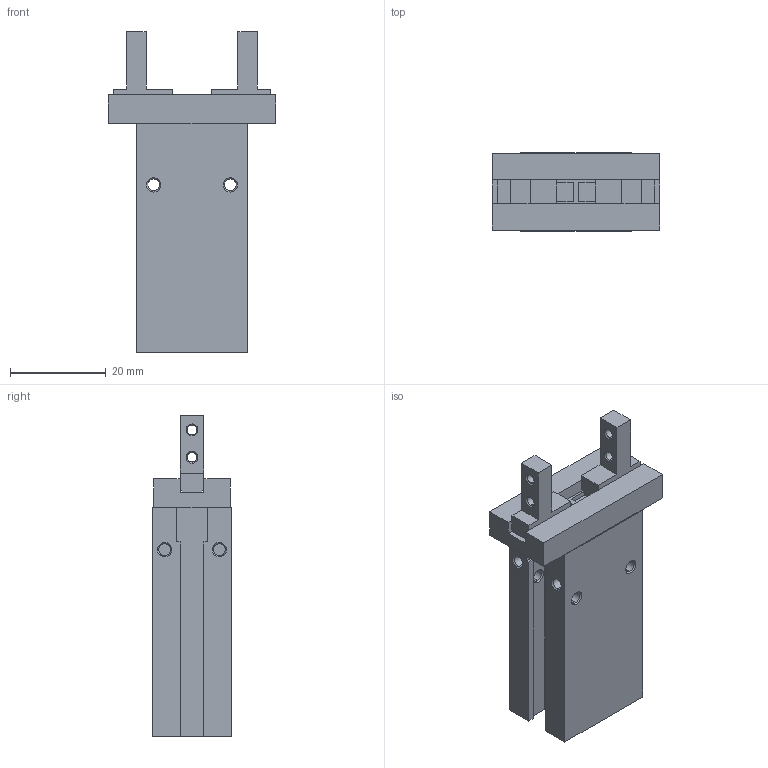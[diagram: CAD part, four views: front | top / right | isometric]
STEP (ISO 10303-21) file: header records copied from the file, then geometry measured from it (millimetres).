
FILE_DESCRIPTION (( 'STEP AP203' ), '1' );
FILE_NAME ('GMHZL2-10S.STEP', '2024-07-24T07:32:59', ( '微软用户' ), ( '微软中国' ), 'SwSTEP 2.0', 'SolidWorks 2018', '' );
FILE_SCHEMA (( 'CONFIG_CONTROL_DESIGN' ));
Length unit declared in the file: millimetre
Products named in the file (3): _MHZL2-10S_Body(0); _MHZL2-10S_Finger(0); GMHZL2-10S
Assembly tree (3 placements, depth 2):
  GMHZL2-10S
    _MHZL2-10S_Body(0)
    _MHZL2-10S_Finger(0)  x2
Bounding box: 35 x 16.4 x 67 mm (x, y, z)
Volume: 18277.1 mm3; surface area: 8365.3 mm2
Topology: 3 solids, 3 shells, 167 faces, 406 edges, 254 vertices
Faces by surface type: plane 95, cone 42, cylinder 30
Entity records: 4335 total; most frequent: DIRECTION 710, CARTESIAN_POINT 687, ORIENTED_EDGE 668, EDGE_CURVE 334, VECTOR 244, LINE 244, AXIS2_PLACEMENT_3D 233, VERTEX_POINT 210
